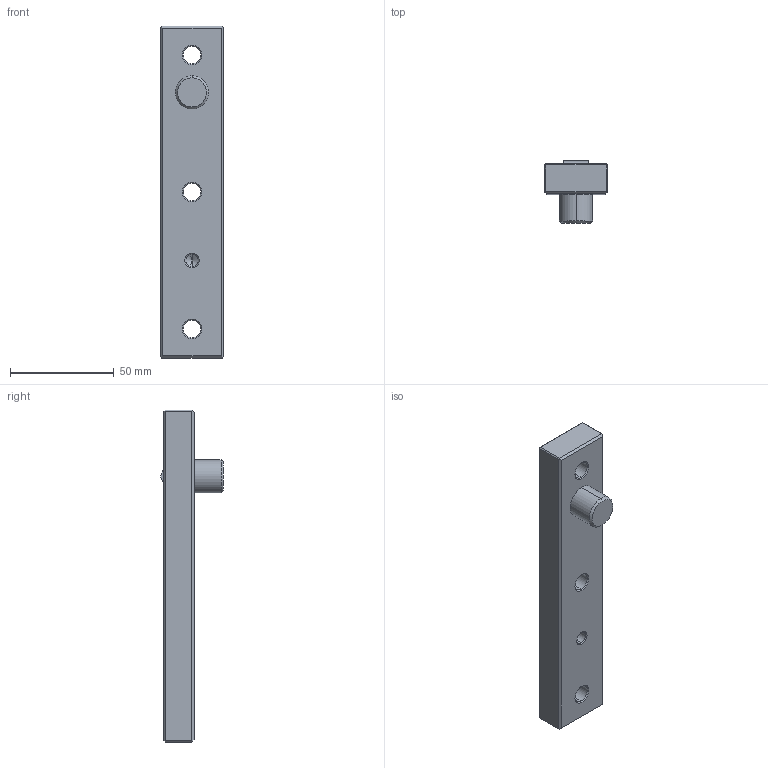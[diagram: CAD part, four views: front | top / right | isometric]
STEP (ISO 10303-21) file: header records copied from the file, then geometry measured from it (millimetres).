
FILE_DESCRIPTION (( 'STEP AP203' ), '1' );
FILE_NAME ('PRI30160.STEP', '2010-11-03T09:44:59', ( ' ' ), ( ' ' ), 'SwSTEP 2.0', 'SolidWorks 2005204', '' );
FILE_SCHEMA (( 'CONFIG_CONTROL_DESIGN' ));
Length unit declared in the file: millimetre
Products named in the file (1): PRI30160
Bounding box: 30 x 29.99 x 160 mm (x, y, z)
Volume: 67070.9 mm3; surface area: 16837.9 mm2
Topology: 1 solids, 1 shells, 63 faces, 138 edges, 81 vertices
Faces by surface type: plane 28, cone 18, cylinder 17
Entity records: 1777 total; most frequent: DIRECTION 314, CARTESIAN_POINT 281, ORIENTED_EDGE 272, EDGE_CURVE 136, AXIS2_PLACEMENT_3D 114, LINE 86, VECTOR 86, VERTEX_POINT 81
